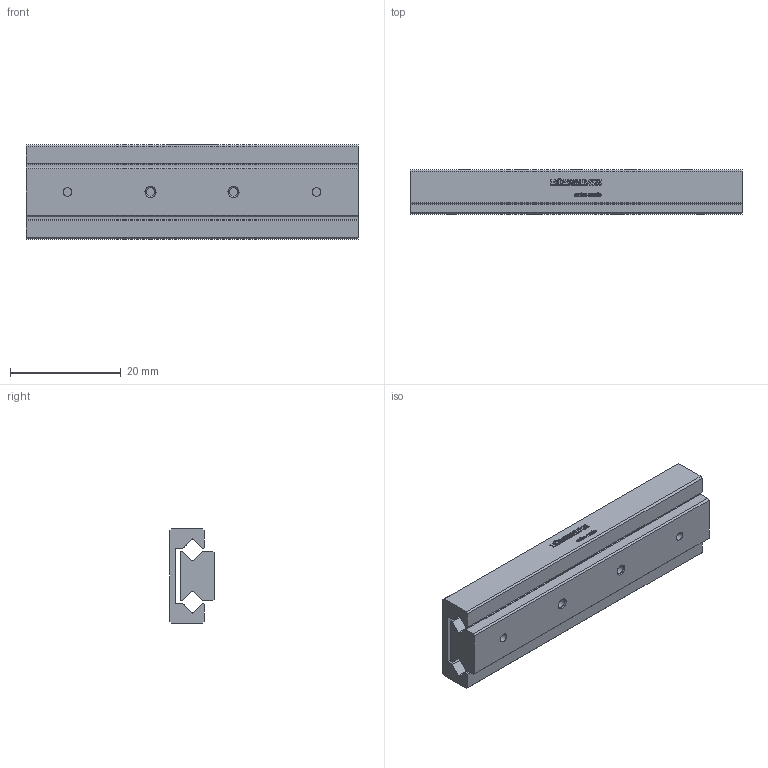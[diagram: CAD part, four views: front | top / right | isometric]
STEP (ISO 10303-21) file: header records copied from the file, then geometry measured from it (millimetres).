
FILE_DESCRIPTION(/* description */ ('STEP AP214'),/* implementation_level */ '2;1');
FILE_NAME(/* name */ 'MSR 7-60.50(0)',/* time_stamp */ '2025-04-16T17:21:20+02:00',/* author */ ('License CC BY-ND 4.0'),/* organization */ ('CADENAS'),/* preprocessor_version */ 'ST-DEVELOPER v19.3',/* originating_system */ 'PARTsolutions',/* authorisation */ ' ');
FILE_SCHEMA (('AUTOMOTIVE_DESIGN {1 0 10303 214 3 1 1}'));
Length unit declared in the file: millimetre
Products named in the file (3): MSR 7-60.50(0); MSR 7-60.50_1; MSR 7-60.50_2
Assembly tree (2 placements, depth 2):
  MSR 7-60.50(0)
    MSR 7-60.50_1
    MSR 7-60.50_2
Bounding box: 60 x 8 x 17 mm (x, y, z)
Volume: 5609.5 mm3; surface area: 5930.9 mm2
Topology: 2 solids, 2 shells, 547 faces, 1528 edges, 1014 vertices
Faces by surface type: cylinder 312, plane 221, cone 14
Full cylindrical faces by diameter (mm): 1.567 x14, 4.25 x2
Entity records: 17709 total; most frequent: DIRECTION 3236, CARTESIAN_POINT 3042, ORIENTED_EDGE 2976, EDGE_CURVE 1488, AXIS2_PLACEMENT_3D 1198, VERTEX_POINT 1004, LINE 840, VECTOR 840
